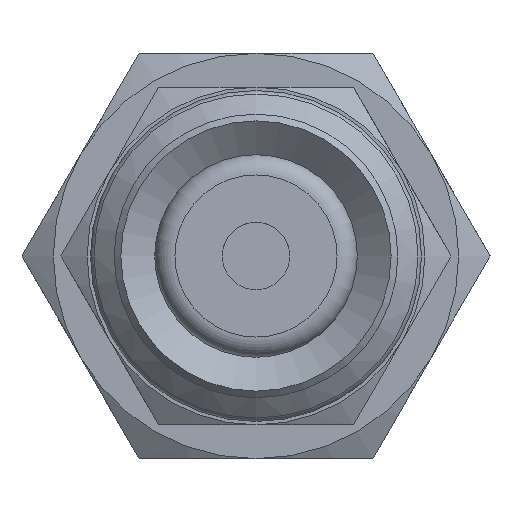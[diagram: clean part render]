
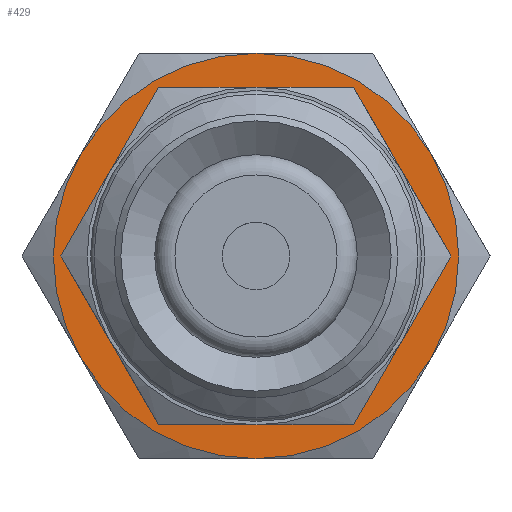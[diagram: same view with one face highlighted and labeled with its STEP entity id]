
A CAD part, front view. The second image highlights one B-rep face of the part: STEP entity #429.
In plain terms, the highlighted planar face has unit normal (0, -1, 0) as drawn and (-1, 0, 0) by its records, which use the part's own axes.
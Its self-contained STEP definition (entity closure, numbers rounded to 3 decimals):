
#429=ADVANCED_FACE('',(#584,#585),#586,.F.);
#584=FACE_BOUND('',#862,.T.);
#585=FACE_OUTER_BOUND('',#863,.T.);
#586=PLANE('',#864);
#862=EDGE_LOOP('',(#1286));
#863=EDGE_LOOP('',(#1287,#1288,#1289,#1290,#1291,#1292));
#864=AXIS2_PLACEMENT_3D('',#1293,#1294,#1295);
#1286=ORIENTED_EDGE('',*,*,#1882,.T.);
#1287=ORIENTED_EDGE('',*,*,#1857,.F.);
#1288=ORIENTED_EDGE('',*,*,#1858,.F.);
#1289=ORIENTED_EDGE('',*,*,#1883,.F.);
#1290=ORIENTED_EDGE('',*,*,#1840,.F.);
#1291=ORIENTED_EDGE('',*,*,#1885,.F.);
#1292=ORIENTED_EDGE('',*,*,#1884,.F.);
#1293=CARTESIAN_POINT('',(0.,0.0,0.0));
#1294=DIRECTION('',(1.0,0.0,0.0));
#1295=DIRECTION('',(0.0,1.0,0.0));
#1840=EDGE_CURVE('',#2062,#2063,#2064,.T.);
#1857=EDGE_CURVE('',#2092,#2089,#2094,.T.);
#1858=EDGE_CURVE('',#2095,#2092,#2096,.T.);
#1882=EDGE_CURVE('',#2131,#2131,#2132,.T.);
#1883=EDGE_CURVE('',#2063,#2095,#2133,.T.);
#1884=EDGE_CURVE('',#2089,#2104,#2134,.T.);
#1885=EDGE_CURVE('',#2104,#2062,#2135,.T.);
#2062=VERTEX_POINT('',#2430);
#2063=VERTEX_POINT('',#2431);
#2064=CIRCLE('',#2432,6.0);
#2089=VERTEX_POINT('',#2541);
#2092=VERTEX_POINT('',#2564);
#2094=CIRCLE('',#2576,6.0);
#2095=VERTEX_POINT('',#2577);
#2096=CIRCLE('',#2578,6.0);
#2104=VERTEX_POINT('',#2617);
#2131=VERTEX_POINT('',#2745);
#2132=CIRCLE('',#2746,4.0);
#2133=CIRCLE('',#2747,6.0);
#2134=CIRCLE('',#2748,6.0);
#2135=CIRCLE('',#2749,6.0);
#2430=CARTESIAN_POINT('',(0.,-5.196,3.0));
#2431=CARTESIAN_POINT('',(0.,-5.196,-3.0));
#2432=AXIS2_PLACEMENT_3D('',#3178,#3179,#3180);
#2541=CARTESIAN_POINT('',(0.,5.196,3.0));
#2564=CARTESIAN_POINT('',(0.,5.196,-3.0));
#2576=AXIS2_PLACEMENT_3D('',#3188,#3189,#3190);
#2577=CARTESIAN_POINT('',(0.,0.0,-6.0));
#2578=AXIS2_PLACEMENT_3D('',#3191,#3192,#3193);
#2617=CARTESIAN_POINT('',(0.,0.0,6.0));
#2745=CARTESIAN_POINT('',(0.,0.0,-4.0));
#2746=AXIS2_PLACEMENT_3D('',#3220,#3221,#3222);
#2747=AXIS2_PLACEMENT_3D('',#3223,#3224,#3225);
#2748=AXIS2_PLACEMENT_3D('',#3226,#3227,#3228);
#2749=AXIS2_PLACEMENT_3D('',#3229,#3230,#3231);
#3178=CARTESIAN_POINT('',(0.,0.0,0.0));
#3179=DIRECTION('',(1.0,0.0,0.0));
#3180=DIRECTION('',(0.0,0.0,-1.0));
#3188=CARTESIAN_POINT('',(0.,0.0,0.0));
#3189=DIRECTION('',(1.0,0.0,0.0));
#3190=DIRECTION('',(0.0,0.0,-1.0));
#3191=CARTESIAN_POINT('',(0.,0.0,0.0));
#3192=DIRECTION('',(1.0,0.0,0.0));
#3193=DIRECTION('',(0.0,0.0,-1.0));
#3220=CARTESIAN_POINT('',(0.,0.0,0.0));
#3221=DIRECTION('',(1.0,0.0,0.0));
#3222=DIRECTION('',(0.0,0.0,-1.0));
#3223=CARTESIAN_POINT('',(0.,0.0,0.0));
#3224=DIRECTION('',(1.0,0.0,0.0));
#3225=DIRECTION('',(0.0,0.0,-1.0));
#3226=CARTESIAN_POINT('',(0.,0.0,0.0));
#3227=DIRECTION('',(1.0,0.0,0.0));
#3228=DIRECTION('',(0.0,0.0,-1.0));
#3229=CARTESIAN_POINT('',(0.,0.0,0.0));
#3230=DIRECTION('',(1.0,0.0,0.0));
#3231=DIRECTION('',(0.0,0.0,-1.0));
